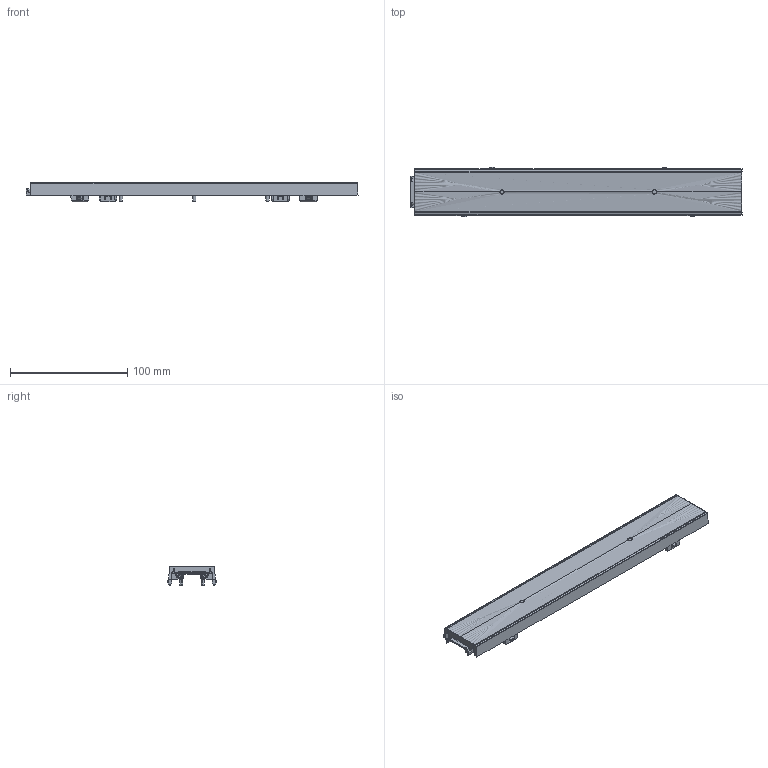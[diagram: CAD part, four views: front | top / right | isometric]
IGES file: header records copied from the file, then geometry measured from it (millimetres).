
Global section: file name: C:\CoreTechnologie\3D-In/021Y719Y02.igs; native system: CT CoreTechnologie 3D Evolution; preprocessor: 2006; date: 1191112.145131; units: millimetre
Bounding box: 283.19 x 42.4 x 16.9 mm (x, y, z)
Volume: 68189.4 mm3; surface area: 33674.7 mm2
Topology: 1 solids, 1 shells, 702 faces, 1874 edges, 1166 vertices
Faces by surface type: plane 303, revolution 247, bspline 152
